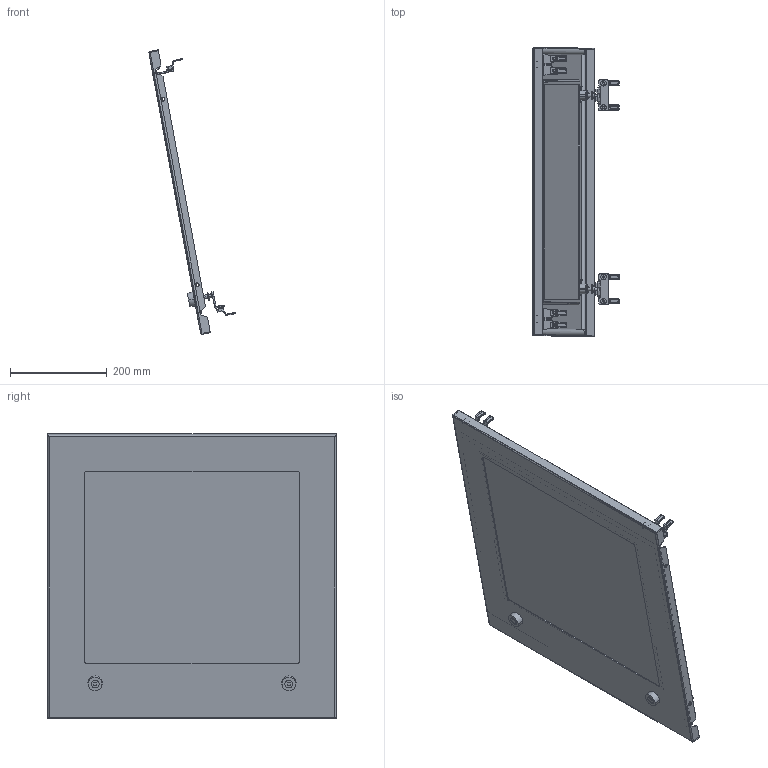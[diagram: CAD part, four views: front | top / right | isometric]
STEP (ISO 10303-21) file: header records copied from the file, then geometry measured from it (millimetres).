
FILE_DESCRIPTION(('CAx-IF Rec.Pracs.---Model Styling and Organization---1.2---2011-12-15','CAx-IF Rec.Pracs.---Geometric and Assembly Validation Properties---4.1---2014-06-16','CAx-IF Rec.Pracs.---PMI Polyline Presentation---2.0---2013-05-24'),'2;1');
FILE_NAME('R5CPMTEM6600.stp','2021-05-06T04:03:27+03:00',(''),(''),'STEP Interface 4.4 by CT CoreTechnologie','3D_Evolution4.4 by CT CoreTechnologie','');
FILE_SCHEMA(('AUTOMOTIVE_DESIGN { 1 0 10303 214 1 1 1 1 }'));
Length unit declared in the file: millimetre
Products named in the file (18): R5CPMTEM6600; MS737-1-1(1); MS737-1-1 stop_fixed; MS737-1-1 Z_ ªàëâ; AC00C485; M6 x 16-DIN 7991 ISR_thread; RB.0687.00.00.1; AC00C745; MS737-1-1(2); RB.0116.00.00.2_-00; RB.1109.00.00.0 ÑÁ_-08; RB.1109.00.01.0_-08; PF 7x14 R5PKEB_0600x0600; AC00C266; Ì6õ12-A5100231_straight; Glue R5CPMTEM_600x600; AC00C061_AC00C061; Glass R5CPMTEM_-08
Assembly tree (37 placements, depth 3):
  R5CPMTEM6600
    MS737-1-1(1)
      MS737-1-1 stop_fixed
      MS737-1-1 Z_ ªàëâ
    AC00C485  x8
    M6 x 16-DIN 7991 ISR_thread  x8
    RB.0687.00.00.1  x2
    AC00C745  x2
    MS737-1-1(2)
      MS737-1-1 stop_fixed
      MS737-1-1 Z_ ªàëâ
    RB.0116.00.00.2_-00  x2
    RB.1109.00.00.0 ÑÁ_-08
      RB.1109.00.01.0_-08
      PF 7x14 R5PKEB_0600x0600
      AC00C266  x2
      Ì6õ12-A5100231_straight
      Glue R5CPMTEM_600x600
      AC00C061_AC00C061
      Glass R5CPMTEM_-08
Bounding box: 178.05 x 595 x 587.31 mm (x, y, z)
Surface area: 1368611.8 mm2 (no closed solid volume)
Topology: 0 solids, 54 shells, 1656 faces, 4129 edges, 2563 vertices
Faces by surface type: plane 708, cylinder 646, bspline 302
Entity records: 23668 total; most frequent: CARTESIAN_POINT 7040, ORIENTED_EDGE 3256, DIRECTION 3224, EDGE_CURVE 1628, AXIS2_PLACEMENT_3D 1107, VERTEX_POINT 1033, VECTOR 1010, LINE 1010
